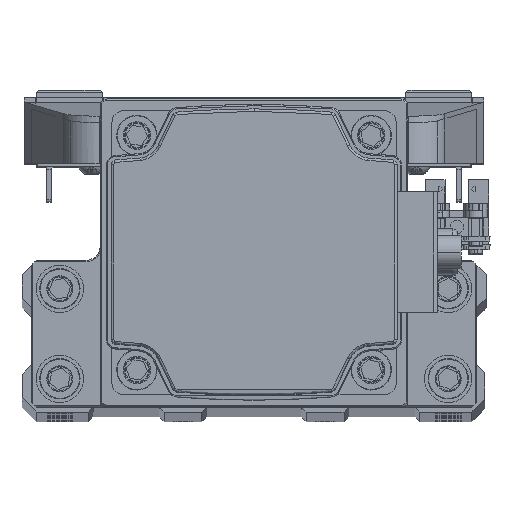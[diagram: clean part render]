
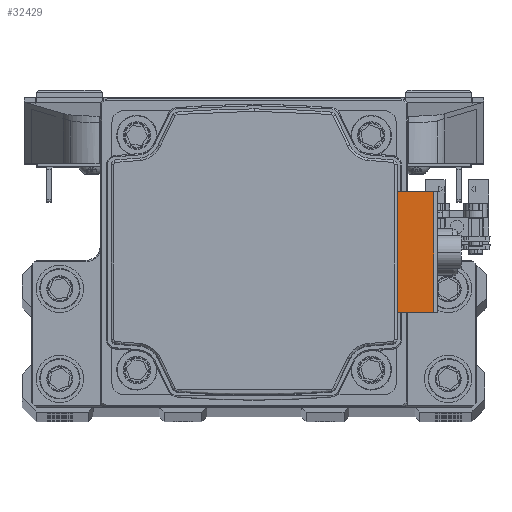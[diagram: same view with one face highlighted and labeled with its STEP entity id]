
A CAD part, top view. The second image highlights one B-rep face of the part: STEP entity #32429.
In plain terms, the highlighted planar face has unit normal (0, 0, 1) as drawn and (0, 0, -1) by its records, which use the part's own axes.
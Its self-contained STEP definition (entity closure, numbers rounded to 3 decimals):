
#256 = ORIENTED_EDGE ( 'NONE', *, *, #3481, .T. ) ;
#875 = VECTOR ( 'NONE', #11260, 1000. ) ;
#1994 = ORIENTED_EDGE ( 'NONE', *, *, #20273, .T. ) ;
#3481 = EDGE_CURVE ( 'NONE', #31181, #9447, #43678, .T. ) ;
#3636 = CARTESIAN_POINT ( 'NONE',  ( -12.75, 37.9, -88.696 ) ) ;
#4047 = EDGE_LOOP ( 'NONE', ( #256, #1994, #8851, #13810 ) ) ;
#5038 = CARTESIAN_POINT ( 'NONE',  ( 0., 37.9, -88.696 ) ) ;
#5898 = CARTESIAN_POINT ( 'NONE',  ( 18.438, 30.2, -88.696 ) ) ;
#8851 = ORIENTED_EDGE ( 'NONE', *, *, #30564, .F. ) ;
#9447 = VERTEX_POINT ( 'NONE', #3636 ) ;
#9581 = DIRECTION ( 'NONE',  ( 1., 0., 0. ) ) ;
#10121 = CARTESIAN_POINT ( 'NONE',  ( -12.75, 37.9, -88.696 ) ) ;
#11260 = DIRECTION ( 'NONE',  ( 0., 1., 0. ) ) ;
#13810 = ORIENTED_EDGE ( 'NONE', *, *, #31660, .F. ) ;
#14429 = VECTOR ( 'NONE', #25085, 1000. ) ;
#18007 = AXIS2_PLACEMENT_3D ( 'NONE', #5038, #19999, #34946 ) ;
#19999 = DIRECTION ( 'NONE',  ( 0., 0., -1. ) ) ;
#20273 = EDGE_CURVE ( 'NONE', #9447, #40171, #28225, .T. ) ;
#20673 = CARTESIAN_POINT ( 'NONE',  ( -12.75, 30.2, -88.696 ) ) ;
#20858 = DIRECTION ( 'NONE',  ( 1., 0., 0. ) ) ;
#21854 = VECTOR ( 'NONE', #20858, 1000. ) ;
#22723 = CARTESIAN_POINT ( 'NONE',  ( 12.75, 30.2, -88.696 ) ) ;
#23680 = FACE_OUTER_BOUND ( 'NONE', #4047, .T. ) ;
#25085 = DIRECTION ( 'NONE',  ( 0., 1., 0. ) ) ;
#25796 = VERTEX_POINT ( 'NONE', #22723 ) ;
#26250 = CARTESIAN_POINT ( 'NONE',  ( 12.75, 37.9, -88.696 ) ) ;
#26636 = VECTOR ( 'NONE', #9581, 1000. ) ;
#28225 = LINE ( 'NONE', #43138, #26636 ) ;
#29916 = LINE ( 'NONE', #44820, #875 ) ;
#30564 = EDGE_CURVE ( 'NONE', #25796, #40171, #29916, .T. ) ;
#31181 = VERTEX_POINT ( 'NONE', #20673 ) ;
#31660 = EDGE_CURVE ( 'NONE', #31181, #25796, #39464, .T. ) ;
#32429 = ADVANCED_FACE ( 'NONE', ( #23680 ), #38609, .T. ) ;
#34946 = DIRECTION ( 'NONE',  ( -1., 0., 0. ) ) ;
#38609 = PLANE ( 'NONE',  #18007 ) ;
#39464 = LINE ( 'NONE', #5898, #21854 ) ;
#40171 = VERTEX_POINT ( 'NONE', #26250 ) ;
#43138 = CARTESIAN_POINT ( 'NONE',  ( 0., 37.9, -88.696 ) ) ;
#43678 = LINE ( 'NONE', #10121, #14429 ) ;
#44820 = CARTESIAN_POINT ( 'NONE',  ( 12.75, 33.991, -88.696 ) ) ;
